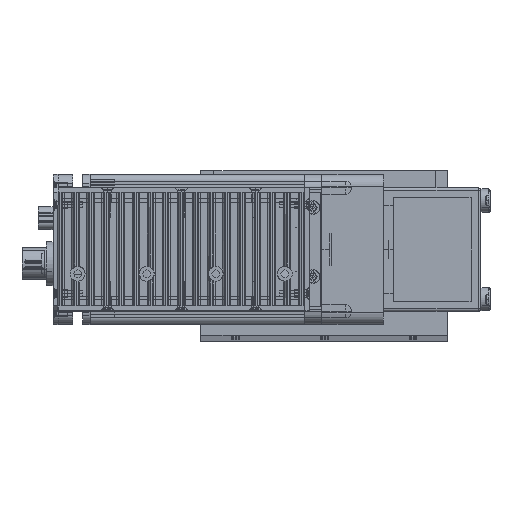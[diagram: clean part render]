
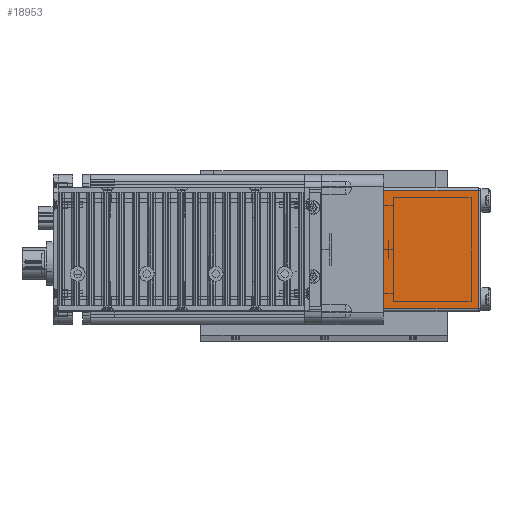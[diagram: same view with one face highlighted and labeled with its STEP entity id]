
A CAD part, top view. The second image highlights one B-rep face of the part: STEP entity #18953.
In plain terms, the highlighted planar face has unit normal (0, 0, 1) as drawn and (1, 0, 0) by its records, which use the part's own axes.
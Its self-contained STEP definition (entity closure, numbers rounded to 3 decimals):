
#5128 = CARTESIAN_POINT ( 'NONE',  ( 62., -25., 38.5 ) ) ;
#5175 = DIRECTION ( 'NONE',  ( 0., 1., 0. ) ) ;
#5176 = VECTOR ( 'NONE', #5175, 1000. ) ;
#5177 = LINE ( 'NONE', #5128, #5176 ) ;
#5211 = CARTESIAN_POINT ( 'NONE',  ( 62., -25., 0. ) ) ;
#5212 = LINE ( 'NONE', #5211, #5267 ) ;
#5266 = DIRECTION ( 'NONE',  ( 0., 1., 0. ) ) ;
#5267 = VECTOR ( 'NONE', #5266, 1000. ) ;
#6191 = CARTESIAN_POINT ( 'NONE',  ( 62., 25., 39.5 ) ) ;
#6222 = PLANE ( 'NONE',  #6224 ) ;
#6224 = AXIS2_PLACEMENT_3D ( 'NONE', #6191, #6288, #6287 ) ;
#6287 = DIRECTION ( 'NONE',  ( 0., -1., 0. ) ) ;
#6288 = DIRECTION ( 'NONE',  ( -1., 0., 0. ) ) ;
#6291 = FACE_OUTER_BOUND ( 'NONE', #14912, .T. ) ;
#14912 = EDGE_LOOP ( 'NONE', ( #15043, #16098, #15401, #18265 ) ) ;
#15043 = ORIENTED_EDGE ( 'NONE', *, *, #45051, .F. ) ;
#15401 = ORIENTED_EDGE ( 'NONE', *, *, #44721, .F. ) ;
#16098 = ORIENTED_EDGE ( 'NONE', *, *, #18183, .T. ) ;
#18122 = EDGE_CURVE ( 'NONE', #44807, #44970, #5177, .T. ) ;
#18183 = EDGE_CURVE ( 'NONE', #45080, #44735, #5212, .T. ) ;
#18265 = ORIENTED_EDGE ( 'NONE', *, *, #18122, .F. ) ;
#18953 = ADVANCED_FACE ( 'NONE', ( #6291 ), #6222, .F. ) ;
#24582 = CARTESIAN_POINT ( 'NONE',  ( 62., 24., 39.5 ) ) ;
#24583 = LINE ( 'NONE', #24582, #24675 ) ;
#24657 = DIRECTION ( 'NONE',  ( 0., 0., -1. ) ) ;
#24675 = VECTOR ( 'NONE', #24657, 1000. ) ;
#25356 = CARTESIAN_POINT ( 'NONE',  ( 62., 24., 0. ) ) ;
#25700 = CARTESIAN_POINT ( 'NONE',  ( 62., -24., 38.5 ) ) ;
#26339 = CARTESIAN_POINT ( 'NONE',  ( 62., 24., 38.5 ) ) ;
#26578 = DIRECTION ( 'NONE',  ( 0., 0., 1. ) ) ;
#26580 = VECTOR ( 'NONE', #26578, 1000. ) ;
#26582 = CARTESIAN_POINT ( 'NONE',  ( 62., -24., 39.5 ) ) ;
#26584 = LINE ( 'NONE', #26582, #26580 ) ;
#26645 = CARTESIAN_POINT ( 'NONE',  ( 62., -24., 0. ) ) ;
#44721 = EDGE_CURVE ( 'NONE', #44970, #44735, #24583, .T. ) ;
#44735 = VERTEX_POINT ( 'NONE', #25356 ) ;
#44807 = VERTEX_POINT ( 'NONE', #25700 ) ;
#44970 = VERTEX_POINT ( 'NONE', #26339 ) ;
#45051 = EDGE_CURVE ( 'NONE', #45080, #44807, #26584, .T. ) ;
#45080 = VERTEX_POINT ( 'NONE', #26645 ) ;
